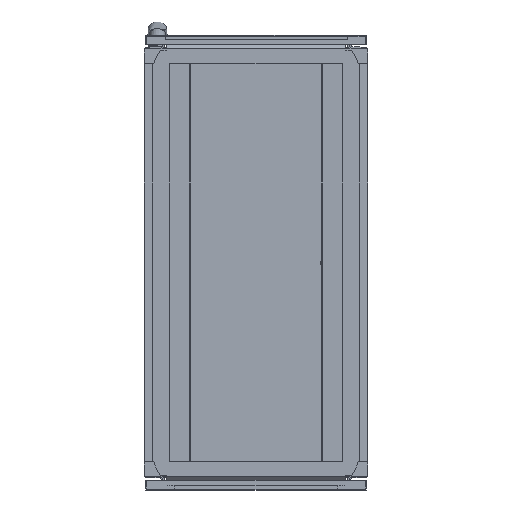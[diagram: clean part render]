
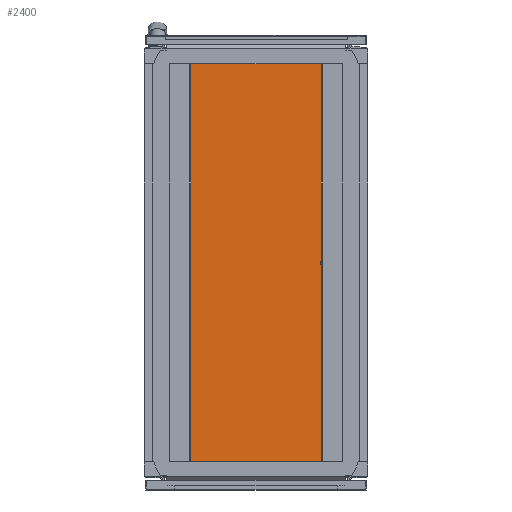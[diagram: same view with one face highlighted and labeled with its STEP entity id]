
A CAD part, front view. The second image highlights one B-rep face of the part: STEP entity #2400.
In plain terms, the highlighted planar face has unit normal (0, -1, 0).
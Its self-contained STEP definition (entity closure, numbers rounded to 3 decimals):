
#2400 = ADVANCED_FACE( '', ( #4764, #4765 ), #4766, .F. );
#4764 = FACE_BOUND( '', #7050, .T. );
#4765 = FACE_OUTER_BOUND( '', #7051, .T. );
#4766 = PLANE( '', #7052 );
#7050 = EDGE_LOOP( '', ( #13261 ) );
#7051 = EDGE_LOOP( '', ( #13262, #13263, #13264, #13265, #13266, #13267, #13268, #13269, #13270, #13271, #13272, #13273, #13274, #13275, #13276, #13277 ) );
#7052 = AXIS2_PLACEMENT_3D( '', #13278, #13279, #13280 );
#13261 = ORIENTED_EDGE( '', *, *, #15071, .F. );
#13262 = ORIENTED_EDGE( '', *, *, #13809, .F. );
#13263 = ORIENTED_EDGE( '', *, *, #15820, .F. );
#13264 = ORIENTED_EDGE( '', *, *, #13463, .F. );
#13265 = ORIENTED_EDGE( '', *, *, #14411, .F. );
#13266 = ORIENTED_EDGE( '', *, *, #15765, .F. );
#13267 = ORIENTED_EDGE( '', *, *, #15026, .F. );
#13268 = ORIENTED_EDGE( '', *, *, #14823, .F. );
#13269 = ORIENTED_EDGE( '', *, *, #15649, .F. );
#13270 = ORIENTED_EDGE( '', *, *, #15319, .F. );
#13271 = ORIENTED_EDGE( '', *, *, #14472, .F. );
#13272 = ORIENTED_EDGE( '', *, *, #15222, .F. );
#13273 = ORIENTED_EDGE( '', *, *, #15636, .F. );
#13274 = ORIENTED_EDGE( '', *, *, #15384, .F. );
#13275 = ORIENTED_EDGE( '', *, *, #15589, .F. );
#13276 = ORIENTED_EDGE( '', *, *, #13739, .F. );
#13277 = ORIENTED_EDGE( '', *, *, #14455, .F. );
#13278 = CARTESIAN_POINT( '', ( -195., 15.5, 384. ) );
#13279 = DIRECTION( '', ( 0., 1., 0. ) );
#13280 = DIRECTION( '', ( 0., 0., 1. ) );
#13463 = EDGE_CURVE( '', #15941, #15942, #15943, .T. );
#13739 = EDGE_CURVE( '', #16434, #16435, #16436, .T. );
#13809 = EDGE_CURVE( '', #16558, #16559, #16560, .T. );
#14411 = EDGE_CURVE( '', #17567, #15941, #17568, .T. );
#14455 = EDGE_CURVE( '', #16559, #16434, #17631, .T. );
#14472 = EDGE_CURVE( '', #17653, #17654, #17655, .T. );
#14823 = EDGE_CURVE( '', #18186, #18187, #18188, .T. );
#15026 = EDGE_CURVE( '', #18187, #18485, #18486, .T. );
#15071 = EDGE_CURVE( '', #18545, #18545, #18546, .F. );
#15222 = EDGE_CURVE( '', #18760, #17653, #18761, .T. );
#15319 = EDGE_CURVE( '', #17654, #18889, #18890, .T. );
#15384 = EDGE_CURVE( '', #18973, #18974, #18975, .T. );
#15589 = EDGE_CURVE( '', #16435, #18973, #19232, .T. );
#15636 = EDGE_CURVE( '', #18974, #18760, #19285, .T. );
#15649 = EDGE_CURVE( '', #18889, #18186, #19300, .T. );
#15765 = EDGE_CURVE( '', #18485, #17567, #19431, .T. );
#15820 = EDGE_CURVE( '', #15942, #16558, #19489, .T. );
#15941 = VERTEX_POINT( '', #19622 );
#15942 = VERTEX_POINT( '', #19623 );
#15943 = LINE( '', #19624, #19625 );
#16434 = VERTEX_POINT( '', #20352 );
#16435 = VERTEX_POINT( '', #20353 );
#16436 = LINE( '', #20354, #20355 );
#16558 = VERTEX_POINT( '', #20531 );
#16559 = VERTEX_POINT( '', #20532 );
#16560 = LINE( '', #20533, #20534 );
#17567 = VERTEX_POINT( '', #22053 );
#17568 = LINE( '', #22054, #22055 );
#17631 = LINE( '', #22148, #22149 );
#17653 = VERTEX_POINT( '', #22183 );
#17654 = VERTEX_POINT( '', #22184 );
#17655 = LINE( '', #22185, #22186 );
#18186 = VERTEX_POINT( '', #23023 );
#18187 = VERTEX_POINT( '', #23024 );
#18188 = LINE( '', #23025, #23026 );
#18485 = VERTEX_POINT( '', #23486 );
#18486 = LINE( '', #23487, #23488 );
#18545 = VERTEX_POINT( '', #23571 );
#18546 = CIRCLE( '', #23572, 4.5 );
#18760 = VERTEX_POINT( '', #23890 );
#18761 = LINE( '', #23891, #23892 );
#18889 = VERTEX_POINT( '', #24069 );
#18890 = LINE( '', #24070, #24071 );
#18973 = VERTEX_POINT( '', #24214 );
#18974 = VERTEX_POINT( '', #24215 );
#18975 = LINE( '', #24216, #24217 );
#19232 = LINE( '', #24630, #24631 );
#19285 = LINE( '', #24704, #24705 );
#19300 = LINE( '', #24723, #24724 );
#19431 = LINE( '', #24911, #24912 );
#19489 = LINE( '', #25004, #25005 );
#19622 = CARTESIAN_POINT( '', ( -175.553, 15.5, -367.183 ) );
#19623 = CARTESIAN_POINT( '', ( -178.761, 15.5, -357.654 ) );
#19624 = CARTESIAN_POINT( '', ( -175.553, 15.5, -367.183 ) );
#19625 = VECTOR( '', #25133, 1000. );
#20352 = CARTESIAN_POINT( '', ( -178.761, 15.5, 357.654 ) );
#20353 = CARTESIAN_POINT( '', ( -175.553, 15.5, 367.183 ) );
#20354 = CARTESIAN_POINT( '', ( -178.761, 15.5, 357.654 ) );
#20355 = VECTOR( '', #25447, 1000. );
#20531 = CARTESIAN_POINT( '', ( -181.25, 15.5, -355.007 ) );
#20532 = CARTESIAN_POINT( '', ( -181.25, 15.5, 355.007 ) );
#20533 = CARTESIAN_POINT( '', ( -181.25, 15.5, -355.007 ) );
#20534 = VECTOR( '', #25514, 1000. );
#22053 = CARTESIAN_POINT( '', ( -170.057, 15.5, -375.75 ) );
#22054 = CARTESIAN_POINT( '', ( -170.057, 15.5, -375.75 ) );
#22055 = VECTOR( '', #26120, 1000. );
#22148 = CARTESIAN_POINT( '', ( -181.25, 15.5, 355.007 ) );
#22149 = VECTOR( '', #26160, 1000. );
#22183 = CARTESIAN_POINT( '', ( 178.761, 15.5, 357.654 ) );
#22184 = CARTESIAN_POINT( '', ( 181.25, 15.5, 355.007 ) );
#22185 = CARTESIAN_POINT( '', ( 178.761, 15.5, 357.654 ) );
#22186 = VECTOR( '', #26173, 1000. );
#23023 = CARTESIAN_POINT( '', ( 178.761, 15.5, -357.654 ) );
#23024 = CARTESIAN_POINT( '', ( 175.553, 15.5, -367.183 ) );
#23025 = CARTESIAN_POINT( '', ( 178.761, 15.5, -357.654 ) );
#23026 = VECTOR( '', #26503, 1000. );
#23486 = CARTESIAN_POINT( '', ( 170.057, 15.5, -375.75 ) );
#23487 = CARTESIAN_POINT( '', ( 175.553, 15.5, -367.183 ) );
#23488 = VECTOR( '', #26694, 1000. );
#23571 = CARTESIAN_POINT( '', ( 122.5, 15.5, 4.5 ) );
#23572 = AXIS2_PLACEMENT_3D( '', #26737, #26738, #26739 );
#23890 = CARTESIAN_POINT( '', ( 175.553, 15.5, 367.183 ) );
#23891 = CARTESIAN_POINT( '', ( 175.553, 15.5, 367.183 ) );
#23892 = VECTOR( '', #26871, 1000. );
#24069 = CARTESIAN_POINT( '', ( 181.25, 15.5, -355.007 ) );
#24070 = CARTESIAN_POINT( '', ( 181.25, 15.5, 355.007 ) );
#24071 = VECTOR( '', #26966, 1000. );
#24214 = CARTESIAN_POINT( '', ( -170.057, 15.5, 375.75 ) );
#24215 = CARTESIAN_POINT( '', ( 170.057, 15.5, 375.75 ) );
#24216 = CARTESIAN_POINT( '', ( -170.057, 15.5, 375.75 ) );
#24217 = VECTOR( '', #27024, 1000. );
#24630 = CARTESIAN_POINT( '', ( -175.553, 15.5, 367.183 ) );
#24631 = VECTOR( '', #27201, 1000. );
#24704 = CARTESIAN_POINT( '', ( 170.057, 15.5, 375.75 ) );
#24705 = VECTOR( '', #27240, 1000. );
#24723 = CARTESIAN_POINT( '', ( 181.25, 15.5, -355.007 ) );
#24724 = VECTOR( '', #27250, 1000. );
#24911 = CARTESIAN_POINT( '', ( 170.057, 15.5, -375.75 ) );
#24912 = VECTOR( '', #27319, 1000. );
#25004 = CARTESIAN_POINT( '', ( -178.761, 15.5, -357.654 ) );
#25005 = VECTOR( '', #27344, 1000. );
#25133 = DIRECTION( '', ( -0.319, 0., 0.948 ) );
#25447 = DIRECTION( '', ( 0.319, 0., 0.948 ) );
#25514 = DIRECTION( '', ( 0., 0., 1. ) );
#26120 = DIRECTION( '', ( -0.54, 0., 0.842 ) );
#26160 = DIRECTION( '', ( 0.685, 0., 0.729 ) );
#26173 = DIRECTION( '', ( 0.685, 0., -0.729 ) );
#26503 = DIRECTION( '', ( -0.319, 0., -0.948 ) );
#26694 = DIRECTION( '', ( -0.54, 0., -0.842 ) );
#26737 = CARTESIAN_POINT( '', ( 122.5, 15.5, 0. ) );
#26738 = DIRECTION( '', ( 0., 1., 0. ) );
#26739 = DIRECTION( '', ( 0., 0., 1. ) );
#26871 = DIRECTION( '', ( 0.319, 0., -0.948 ) );
#26966 = DIRECTION( '', ( 0., 0., -1. ) );
#27024 = DIRECTION( '', ( 1., 0., 0. ) );
#27201 = DIRECTION( '', ( 0.54, 0., 0.842 ) );
#27240 = DIRECTION( '', ( 0.54, 0., -0.842 ) );
#27250 = DIRECTION( '', ( -0.685, 0., -0.729 ) );
#27319 = DIRECTION( '', ( -1., 0., 0. ) );
#27344 = DIRECTION( '', ( -0.685, 0., 0.729 ) );
